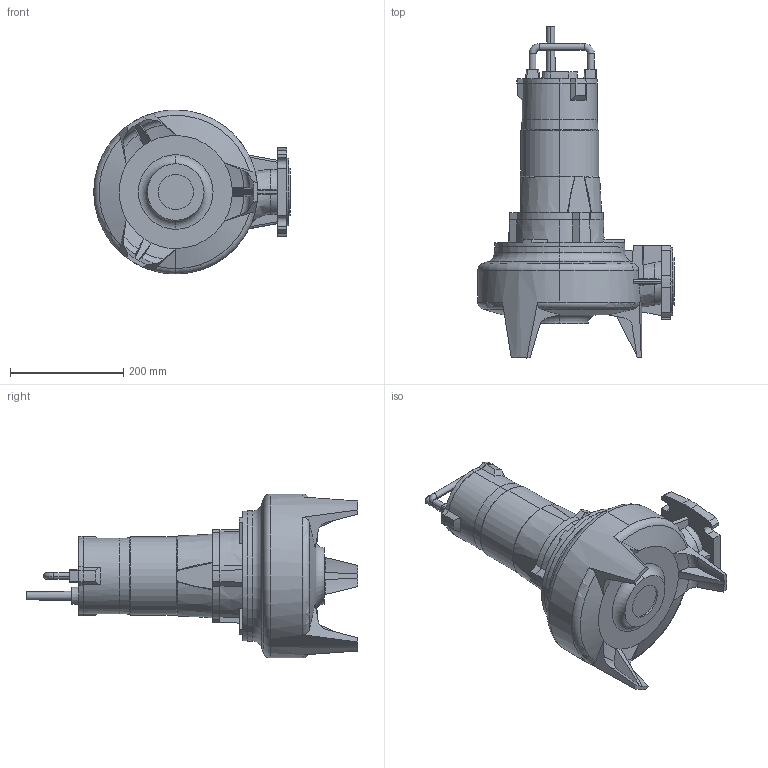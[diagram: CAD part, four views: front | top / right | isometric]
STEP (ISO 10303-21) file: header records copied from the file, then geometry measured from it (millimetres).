
FILE_DESCRIPTION (( 'STEP AP203' ), '1' );
FILE_NAME ('65FWC-V-54....STEP', '2023-11-06T14:53:19', ( '' ), ( '' ), 'SwSTEP 2.0', 'SolidWorks 2022', '' );
FILE_SCHEMA (( 'CONFIG_CONTROL_DESIGN' ));
Length unit declared in the file: millimetre
Products named in the file (1): 65FWC-V-54...
Bounding box: 347.5 x 587 x 290 mm (x, y, z)
Volume: 13121622.2 mm3; surface area: 464960 mm2
Topology: 1 solids, 2 shells, 285 faces, 752 edges, 484 vertices
Faces by surface type: plane 123, cylinder 61, cone 55, torus 29, bspline 17
Entity records: 10159 total; most frequent: CARTESIAN_POINT 3325, ORIENTED_EDGE 1504, DIRECTION 1340, EDGE_CURVE 752, AXIS2_PLACEMENT_3D 531, VERTEX_POINT 484, EDGE_LOOP 302, ADVANCED_FACE 285
